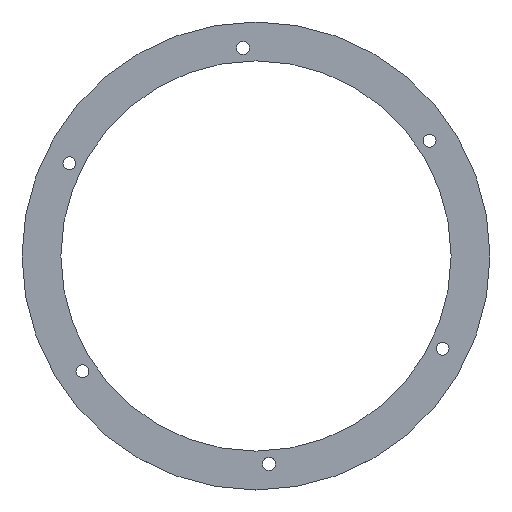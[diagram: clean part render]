
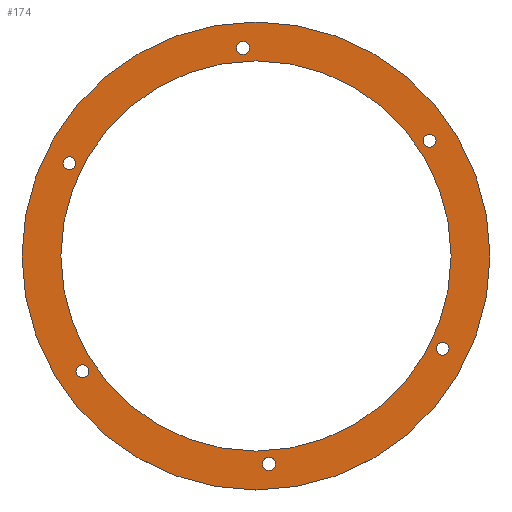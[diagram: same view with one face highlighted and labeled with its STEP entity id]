
A CAD part, top view. The second image highlights one B-rep face of the part: STEP entity #174.
In plain terms, the highlighted planar face has unit normal (0, 0, 1).
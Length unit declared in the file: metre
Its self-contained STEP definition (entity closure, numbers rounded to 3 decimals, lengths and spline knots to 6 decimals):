
#12=PLANE('',#213);
#30=ORIENTED_EDGE('',*,*,#58,.F.);
#31=ORIENTED_EDGE('',*,*,#56,.F.);
#32=ORIENTED_EDGE('',*,*,#54,.F.);
#33=ORIENTED_EDGE('',*,*,#52,.F.);
#34=ORIENTED_EDGE('',*,*,#50,.F.);
#35=ORIENTED_EDGE('',*,*,#48,.F.);
#36=ORIENTED_EDGE('',*,*,#46,.F.);
#37=ORIENTED_EDGE('',*,*,#60,.T.);
#46=EDGE_CURVE('',#62,#62,#78,.T.);
#48=EDGE_CURVE('',#64,#64,#80,.T.);
#50=EDGE_CURVE('',#66,#66,#82,.T.);
#52=EDGE_CURVE('',#68,#68,#84,.T.);
#54=EDGE_CURVE('',#70,#70,#86,.T.);
#56=EDGE_CURVE('',#72,#72,#88,.T.);
#58=EDGE_CURVE('',#74,#74,#90,.T.);
#60=EDGE_CURVE('',#76,#76,#92,.T.);
#62=VERTEX_POINT('',#272);
#64=VERTEX_POINT('',#277);
#66=VERTEX_POINT('',#282);
#68=VERTEX_POINT('',#287);
#70=VERTEX_POINT('',#292);
#72=VERTEX_POINT('',#297);
#74=VERTEX_POINT('',#302);
#76=VERTEX_POINT('',#307);
#78=CIRCLE('',#190,0.0632);
#80=CIRCLE('',#193,0.0021);
#82=CIRCLE('',#196,0.0021);
#84=CIRCLE('',#199,0.0021);
#86=CIRCLE('',#202,0.0021);
#88=CIRCLE('',#205,0.0021);
#90=CIRCLE('',#208,0.0021);
#92=CIRCLE('',#211,0.0758);
#110=EDGE_LOOP('',(#30));
#111=EDGE_LOOP('',(#31));
#112=EDGE_LOOP('',(#32));
#113=EDGE_LOOP('',(#33));
#114=EDGE_LOOP('',(#34));
#115=EDGE_LOOP('',(#35));
#116=EDGE_LOOP('',(#36));
#117=EDGE_LOOP('',(#37));
#142=FACE_BOUND('',#110,.T.);
#143=FACE_BOUND('',#111,.T.);
#144=FACE_BOUND('',#112,.T.);
#145=FACE_BOUND('',#113,.T.);
#146=FACE_BOUND('',#114,.T.);
#147=FACE_BOUND('',#115,.T.);
#148=FACE_BOUND('',#116,.T.);
#149=FACE_BOUND('',#117,.T.);
#174=ADVANCED_FACE('',(#142,#143,#144,#145,#146,#147,#148,#149),#12,.T.);
#190=AXIS2_PLACEMENT_3D('',#271,#219,#220);
#193=AXIS2_PLACEMENT_3D('',#276,#225,#226);
#196=AXIS2_PLACEMENT_3D('',#281,#231,#232);
#199=AXIS2_PLACEMENT_3D('',#286,#237,#238);
#202=AXIS2_PLACEMENT_3D('',#291,#243,#244);
#205=AXIS2_PLACEMENT_3D('',#296,#249,#250);
#208=AXIS2_PLACEMENT_3D('',#301,#255,#256);
#211=AXIS2_PLACEMENT_3D('',#306,#261,#262);
#213=AXIS2_PLACEMENT_3D('',#310,#265,#266);
#219=DIRECTION('',(0.,0.,1.));
#220=DIRECTION('',(1.,0.,0.));
#225=DIRECTION('',(0.,0.,1.));
#226=DIRECTION('',(1.,0.,0.));
#231=DIRECTION('',(0.,0.,1.));
#232=DIRECTION('',(1.,0.,0.));
#237=DIRECTION('',(0.,0.,1.));
#238=DIRECTION('',(1.,0.,0.));
#243=DIRECTION('',(0.,0.,1.));
#244=DIRECTION('',(1.,0.,0.));
#249=DIRECTION('',(0.,0.,1.));
#250=DIRECTION('',(1.,0.,0.));
#255=DIRECTION('',(0.,0.,1.));
#256=DIRECTION('',(1.,0.,0.));
#261=DIRECTION('',(0.,0.,1.));
#262=DIRECTION('',(1.,0.,0.));
#265=DIRECTION('',(0.,0.,1.));
#266=DIRECTION('',(1.,0.,0.));
#271=CARTESIAN_POINT('',(0.,0.,0.001));
#272=CARTESIAN_POINT('',(0.0632,0.,0.001));
#276=CARTESIAN_POINT('',(-0.060451,0.030032,0.001));
#277=CARTESIAN_POINT('',(-0.058351,0.030032,0.001));
#281=CARTESIAN_POINT('',(-0.056234,-0.037336,0.001));
#282=CARTESIAN_POINT('',(-0.054134,-0.037336,0.001));
#286=CARTESIAN_POINT('',(0.004217,-0.067368,0.001));
#287=CARTESIAN_POINT('',(0.006317,-0.067368,0.001));
#291=CARTESIAN_POINT('',(0.060451,-0.030032,0.001));
#292=CARTESIAN_POINT('',(0.062551,-0.030032,0.001));
#296=CARTESIAN_POINT('',(0.056234,0.037336,0.001));
#297=CARTESIAN_POINT('',(0.058334,0.037336,0.001));
#301=CARTESIAN_POINT('',(-0.004217,0.067368,0.001));
#302=CARTESIAN_POINT('',(-0.002117,0.067368,0.001));
#306=CARTESIAN_POINT('',(0.,0.,0.001));
#307=CARTESIAN_POINT('',(0.0758,0.,0.001));
#310=CARTESIAN_POINT('',(0.020875,-0.020875,0.001));
